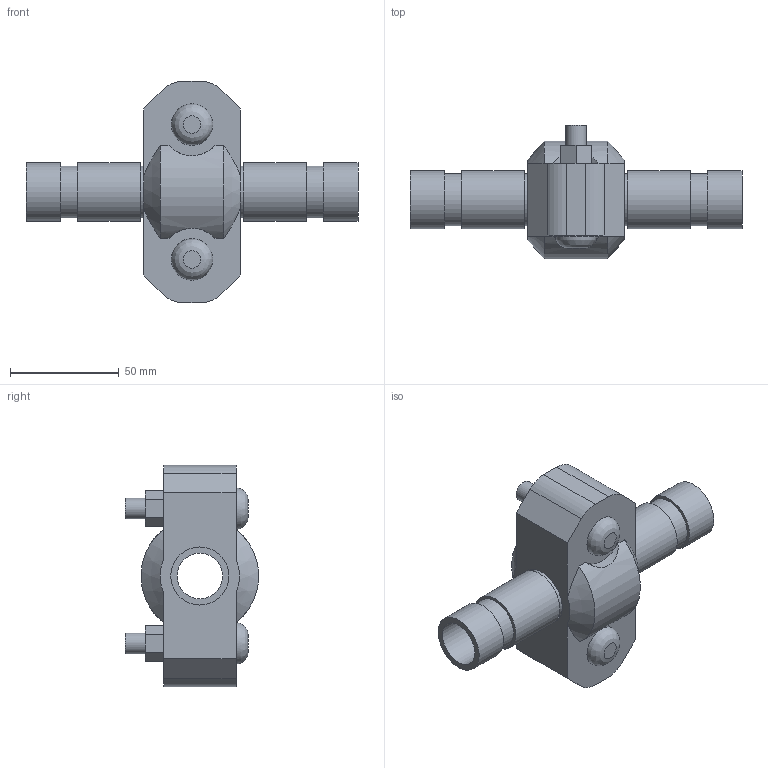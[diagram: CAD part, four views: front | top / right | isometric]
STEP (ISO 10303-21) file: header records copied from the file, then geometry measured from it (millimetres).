
FILE_DESCRIPTION(/* description */ ('VIC EXPANSION JOINT 1 COUPLING COMPRESSED STYLE 155 (OGS)','CAx-IF Rec.Pracs.---Representation and Presentation of Product Manufacturing Information (PMI)---4.0---2014-10-13'),/* implementation_level */ '2;1');
FILE_NAME(/* name */ 'C:\Users\kkamble\AppData\Roaming\Autodesk\ApplicationPlugins\Victaulic.Temp\A74\Victaulic_IPS_Expansion Joint_Compressed_1 Coupling_Style 155 (OGS)_0.75 (20).stp',/* time_stamp */ '2021-06-27T00:13:55+02:00',/* author */ ('kkamble'),/* organization */ ('Victaulic'),/* preprocessor_version */ 'ST-DEVELOPER v17.2',/* originating_system */ 'Autodesk Inventor 2019',/* authorisation */ '');
FILE_SCHEMA (('AP242_MANAGED_MODEL_BASED_3D_ENGINEERING_MIM_LF { 1 0 10303 442 1 1 4 }'));
Length unit declared in the file: inch
Products named in the file (3): 155-0.75; Nipple-0.75; 077-0.75
Assembly tree (3 placements, depth 2):
  155-0.75
    Nipple-0.75  x2
    077-0.75
Bounding box: 152.4 x 61.1 x 101.6 mm (x, y, z)
Volume: 169943 mm3; surface area: 51399 mm2
Topology: 3 solids, 5 shells, 81 faces, 199 edges, 142 vertices
Faces by surface type: plane 46, cylinder 29, cone 4, bspline 2
Full cylindrical faces by diameter (mm): 9.525 x4, 11.43 x2, 20.93 x2, 23.825 x4, 26.67 x7
Entity records: 2407 total; most frequent: CARTESIAN_POINT 498, DIRECTION 371, ORIENTED_EDGE 338, EDGE_CURVE 169, AXIS2_PLACEMENT_3D 141, VERTEX_POINT 118, LINE 89, VECTOR 89
